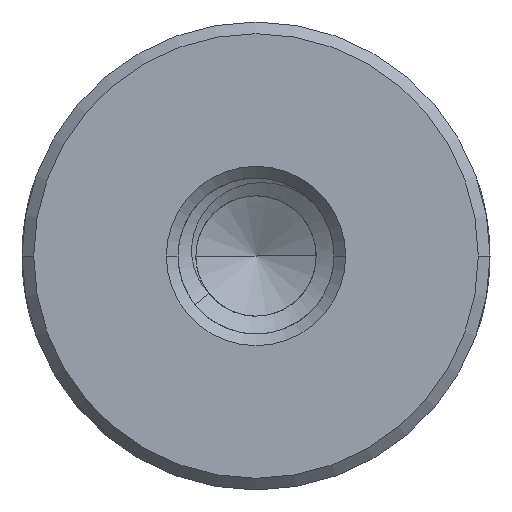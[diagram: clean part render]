
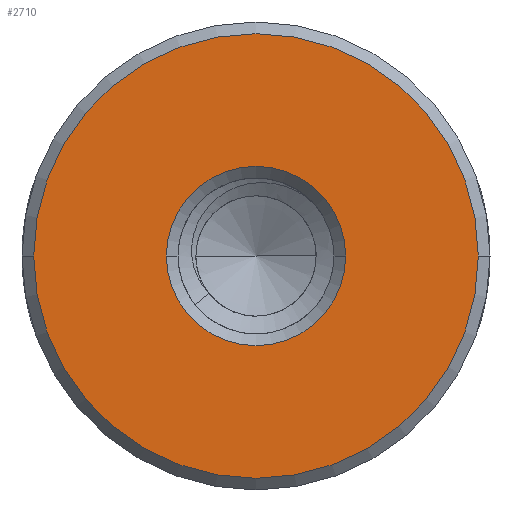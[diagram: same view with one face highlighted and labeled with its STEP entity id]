
A CAD part, front view. The second image highlights one B-rep face of the part: STEP entity #2710.
In plain terms, the highlighted planar face has unit normal (0, -1, 0).
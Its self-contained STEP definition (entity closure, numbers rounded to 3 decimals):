
#1=CARTESIAN_POINT('',(0.,-25.,0.));
#2=DIRECTION('',(0.,-1.,0.));
#3=DIRECTION('',(-1.,0.,0.));
#4=AXIS2_PLACEMENT_3D('',#1,#2,#3);
#6=CARTESIAN_POINT('',(0.,-25.,0.));
#7=DIRECTION('',(0.,-1.,0.));
#8=DIRECTION('',(1.,0.,0.));
#9=AXIS2_PLACEMENT_3D('',#6,#7,#8);
#11=CARTESIAN_POINT('',(0.,-25.,0.));
#12=DIRECTION('',(0.,1.,0.));
#13=DIRECTION('',(-1.,0.,0.));
#14=AXIS2_PLACEMENT_3D('',#11,#12,#13);
#16=CARTESIAN_POINT('',(0.,-25.,0.));
#17=DIRECTION('',(0.,1.,0.));
#18=DIRECTION('',(1.,0.,0.));
#19=AXIS2_PLACEMENT_3D('',#16,#17,#18);
#2537=CARTESIAN_POINT('',(-5.7,-25.,0.));
#2538=CARTESIAN_POINT('',(5.7,-25.,0.));
#2539=VERTEX_POINT('',#2537);
#2540=VERTEX_POINT('',#2538);
#2685=CARTESIAN_POINT('',(-2.3,-25.,0.));
#2686=CARTESIAN_POINT('',(2.3,-25.,0.));
#2687=VERTEX_POINT('',#2685);
#2688=VERTEX_POINT('',#2686);
#2693=CARTESIAN_POINT('',(0.,-25.,0.));
#2694=DIRECTION('',(0.,1.,0.));
#2695=DIRECTION('',(1.,0.,0.));
#2696=AXIS2_PLACEMENT_3D('',#2693,#2694,#2695);
#2697=PLANE('',#2696);
#2699=ORIENTED_EDGE('',*,*,#2698,.F.);
#2701=ORIENTED_EDGE('',*,*,#2700,.F.);
#2702=EDGE_LOOP('',(#2699,#2701));
#2703=FACE_OUTER_BOUND('',#2702,.F.);
#2705=ORIENTED_EDGE('',*,*,#2704,.F.);
#2707=ORIENTED_EDGE('',*,*,#2706,.F.);
#2708=EDGE_LOOP('',(#2705,#2707));
#2709=FACE_BOUND('',#2708,.F.);
#2710=ADVANCED_FACE('',(#2703,#2709),#2697,.F.);
#5=CIRCLE('',#4,5.7);
#10=CIRCLE('',#9,5.7);
#15=CIRCLE('',#14,2.3);
#20=CIRCLE('',#19,2.3);
#2698=EDGE_CURVE('',#2539,#2540,#5,.T.);
#2700=EDGE_CURVE('',#2540,#2539,#10,.T.);
#2704=EDGE_CURVE('',#2687,#2688,#15,.T.);
#2706=EDGE_CURVE('',#2688,#2687,#20,.T.);
